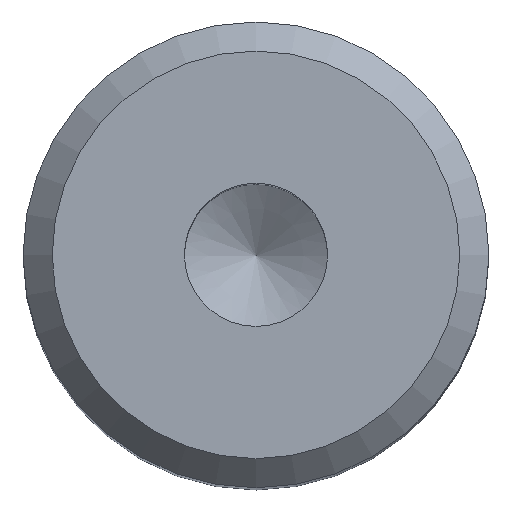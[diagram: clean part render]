
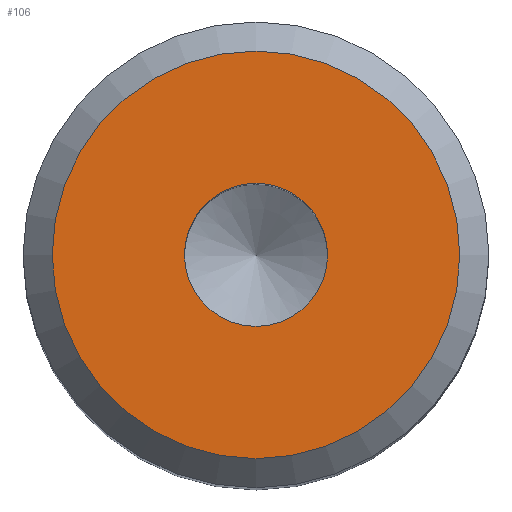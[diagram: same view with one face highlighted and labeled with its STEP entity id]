
A CAD part, top view. The second image highlights one B-rep face of the part: STEP entity #106.
In plain terms, the highlighted planar face has unit normal (0, 0, 1).
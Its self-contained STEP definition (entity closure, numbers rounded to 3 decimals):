
#15=FACE_BOUND('',#30,.T.);
#16=PLANE('',#141);
#22=FACE_OUTER_BOUND('',#29,.T.);
#29=EDGE_LOOP('',(#86));
#30=EDGE_LOOP('',(#87));
#45=CIRCLE('',#135,3.5);
#50=CIRCLE('',#142,1.23);
#53=VERTEX_POINT('',#188);
#58=VERTEX_POINT('',#202);
#62=EDGE_CURVE('',#53,#53,#45,.T.);
#69=EDGE_CURVE('',#58,#58,#50,.T.);
#86=ORIENTED_EDGE('',*,*,#62,.F.);
#87=ORIENTED_EDGE('',*,*,#69,.T.);
#106=ADVANCED_FACE('',(#22,#15),#16,.T.);
#135=AXIS2_PLACEMENT_3D('',#189,#153,#154);
#141=AXIS2_PLACEMENT_3D('',#201,#167,#168);
#142=AXIS2_PLACEMENT_3D('',#203,#169,#170);
#153=DIRECTION('center_axis',(0.,0.,-1.));
#154=DIRECTION('ref_axis',(-1.,0.,0.));
#167=DIRECTION('center_axis',(0.,0.,1.));
#168=DIRECTION('ref_axis',(1.,0.,0.));
#169=DIRECTION('center_axis',(0.,0.,-1.));
#170=DIRECTION('ref_axis',(1.,0.,0.));
#188=CARTESIAN_POINT('',(3.5,0.,24.));
#189=CARTESIAN_POINT('Origin',(0.,0.,24.));
#201=CARTESIAN_POINT('Origin',(0.,0.,24.));
#202=CARTESIAN_POINT('',(-1.23,0.,24.));
#203=CARTESIAN_POINT('Origin',(0.,0.,24.));
